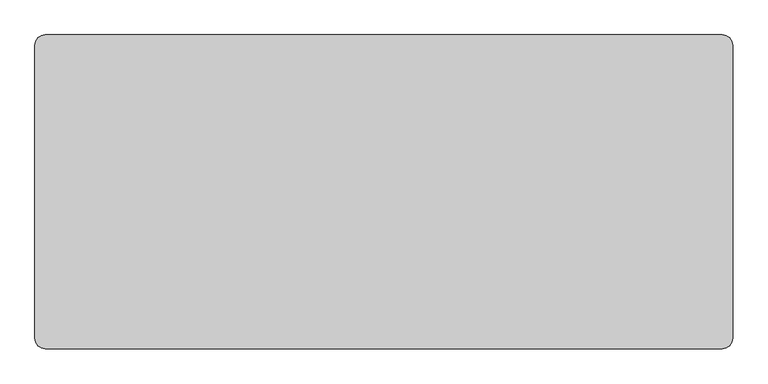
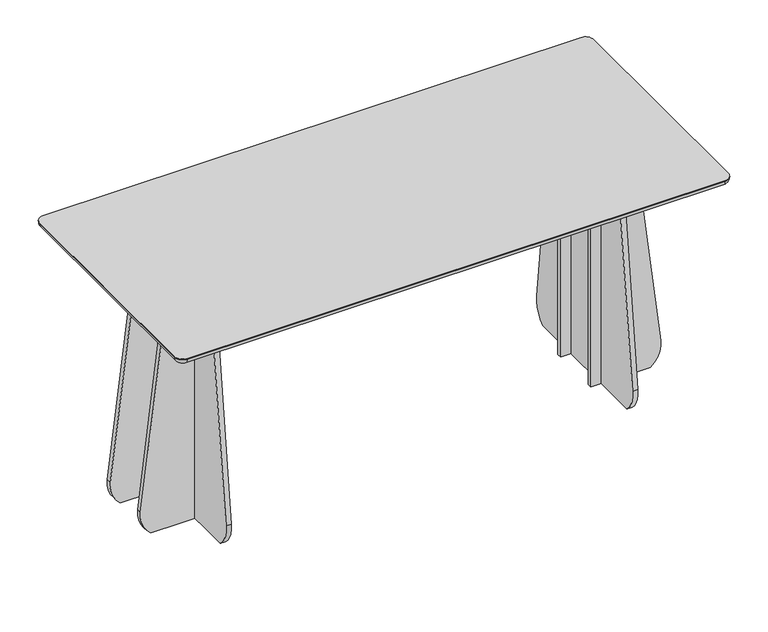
"""IFC4 building model written with IfcOpenShell, lengths in millimetres: furniture geometry, Lundbergs Möbler - Funghi Largo - Table - Rectangular - 200x90 - H90 : Lundbergs Möbler - Funghi Largo - Table - Rectangular - 200x90 - H90."""

from ifc_helpers import new_model, si_unit, point, frame, frame_2d, origin, place, context, project, spatial, polyline, circle_curve, ellipse_curve, trimmed, segment, composite_curve, outline, extrude, source, transform, mapped, element, save
from ifc_brep_helpers import plane_surface, cylinder_surface, revolved_surface, advanced_brep


def furniture_3231cc4d(model_context):
    return source(origin(), model_context, "Body", "SolidModel", [
        advanced_brep(
        [(-980.0, 420.0, 876.0), (-1000.0, 420.0, 896.0), (-970.0, 450.0, 896.0), (-970.0, 430.0, 876.0), (-980.0, -420.0, 876.0), (-1000.0, -420.0, 896.0), (-970.0, -430.0, 876.0), (-970.0, -450.0, 896.0), (970.0, -430.0, 876.0), (970.0, -450.0, 896.0), (980.0, -420.0, 876.0), (1000.0, -420.0, 896.0), (980.0, 420.0, 876.0), (1000.0, 420.0, 896.0), (970.0, 430.0, 876.0), (970.0, 450.0, 896.0), (970.0, 450.0, 900.0), (-970.0, 450.0, 900.0), (-1000.0, 420.0, 900.0), (-1000.0, -420.0, 900.0), (-970.0, -450.0, 900.0), (970.0, -450.0, 900.0), (1000.0, -420.0, 900.0), (1000.0, 420.0, 900.0)],
        [
            (0, 1, circle_curve(frame((-980.0, 420.0, 896.0), z_axis=(0.0, 1.0, 0.0), x_axis=(1.0, 0.0, 0.0)), 20.0)),
            (1, 2, circle_curve(frame((-970.0, 420.0, 896.0), z_axis=(0.0, 0.0, -1.0), x_axis=(0.0, 1.0, 0.0)), 30.0)),
            (2, 3, circle_curve(frame((-970.0, 430.0, 896.0), z_axis=(-1.0, 0.0, 0.0), x_axis=(0.0, -1.0, 0.0)), 20.0)),
            (3, 0, circle_curve(frame((-970.0, 420.0, 876.0), z_axis=(0.0, 0.0, 1.0), x_axis=(0.0, 1.0, 0.0)), 10.0)),
            (0, 4),
            (4, 5, circle_curve(frame((-980.0, -420.0, 896.0), z_axis=(0.0, 1.0, 0.0), x_axis=(1.0, 0.0, 0.0)), 20.0)),
            (5, 1),
            (4, 6, circle_curve(frame((-970.0, -420.0, 876.0), z_axis=(0.0, 0.0, 1.0), x_axis=(-1.0, 0.0, 0.0)), 10.0)),
            (6, 7, circle_curve(frame((-970.0, -430.0, 896.0), z_axis=(-1.0, 0.0, 0.0), x_axis=(0.0, 1.0, 0.0)), 20.0)),
            (7, 5, circle_curve(frame((-970.0, -420.0, 896.0), z_axis=(0.0, 0.0, -1.0), x_axis=(-1.0, 0.0, 0.0)), 30.0)),
            (6, 8),
            (8, 9, circle_curve(frame((970.0, -430.0, 896.0), z_axis=(-1.0, 0.0, 0.0), x_axis=(0.0, 1.0, 0.0)), 20.0)),
            (9, 7),
            (8, 10, circle_curve(frame((970.0, -420.0, 876.0), z_axis=(0.0, 0.0, 1.0), x_axis=(0.0, -1.0, 0.0)), 10.0)),
            (10, 11, circle_curve(frame((980.0, -420.0, 896.0), z_axis=(0.0, -1.0, 0.0), x_axis=(-1.0, 0.0, 0.0)), 20.0)),
            (11, 9, circle_curve(frame((970.0, -420.0, 896.0), z_axis=(0.0, 0.0, -1.0), x_axis=(0.0, -1.0, 0.0)), 30.0)),
            (10, 12),
            (12, 13, circle_curve(frame((980.0, 420.0, 896.0), z_axis=(0.0, -1.0, 0.0), x_axis=(-1.0, 0.0, 0.0)), 20.0)),
            (13, 11),
            (12, 14, circle_curve(frame((970.0, 420.0, 876.0), z_axis=(0.0, 0.0, 1.0), x_axis=(1.0, 0.0, 0.0)), 10.0)),
            (14, 15, circle_curve(frame((970.0, 430.0, 896.0), z_axis=(1.0, 0.0, 0.0), x_axis=(0.0, -1.0, 0.0)), 20.0)),
            (15, 13, circle_curve(frame((970.0, 420.0, 896.0), z_axis=(0.0, 0.0, -1.0), x_axis=(1.0, 0.0, 0.0)), 30.0)),
            (2, 15),
            (14, 3),
            (16, 17),
            (17, 18, circle_curve(frame((-970.0, 420.0, 900.0), z_axis=(0.0, 0.0, 1.0), x_axis=(0.0, 1.0, 0.0)), 30.0)),
            (18, 19),
            (19, 20, circle_curve(frame((-970.0, -420.0, 900.0), z_axis=(0.0, 0.0, 1.0), x_axis=(0.0, 1.0, 0.0)), 30.0)),
            (20, 21),
            (21, 22, circle_curve(frame((970.0, -420.0, 900.0), z_axis=(0.0, 0.0, 1.0), x_axis=(0.0, 1.0, 0.0)), 30.0)),
            (22, 23),
            (23, 16, circle_curve(frame((970.0, 420.0, 900.0), z_axis=(0.0, 0.0, 1.0), x_axis=(0.0, 1.0, 0.0)), 30.0)),
            (16, 15),
            (2, 17),
            (1, 18),
            (5, 19),
            (7, 20),
            (9, 21),
            (11, 22),
            (13, 23),
        ],
        [
            revolved_surface(trimmed(ellipse_curve(frame((-970.0, 430.0, 896.0), z_axis=(1.0, 0.0, 0.0), x_axis=(0.0, -1.0, 0.0)), 20.0, 20.0), [point((-970.0, 430.0, 876.0))], [point((-970.0, 450.0, 896.0))], True, "CARTESIAN"), (-970.0, 420.0, 170.0), (0.0, 0.0, 1.0)),
            cylinder_surface(frame((-980.0, 420.0, 896.0), z_axis=(0.0, -1.0, 0.0), x_axis=(1.0, 0.0, 0.0)), 20.0),
            revolved_surface(trimmed(ellipse_curve(frame((-980.0, -420.0, 896.0), z_axis=(0.0, 1.0, 0.0), x_axis=(1.0, 0.0, 0.0)), 20.0, 20.0), [point((-980.0, -420.0, 876.0))], [point((-1000.0, -420.0, 896.0))], True, "CARTESIAN"), (-970.0, -420.0, 170.0), (0.0, 0.0, 1.0)),
            cylinder_surface(frame((-970.0, -430.0, 896.0), z_axis=(1.0, 0.0, 0.0), x_axis=(0.0, 1.0, 0.0)), 20.0),
            revolved_surface(trimmed(ellipse_curve(frame((970.0, -430.0, 896.0), z_axis=(-1.0, 0.0, 0.0), x_axis=(0.0, 1.0, 0.0)), 20.0, 20.0), [point((970.0, -430.0, 876.0))], [point((970.0, -450.0, 896.0))], True, "CARTESIAN"), (970.0, -420.0, 170.0), (0.0, 0.0, 1.0)),
            cylinder_surface(frame((980.0, -420.0, 896.0), z_axis=(0.0, 1.0, 0.0), x_axis=(-1.0, 0.0, 0.0)), 20.0),
            revolved_surface(trimmed(ellipse_curve(frame((980.0, 420.0, 896.0), z_axis=(0.0, -1.0, 0.0), x_axis=(-1.0, 0.0, 0.0)), 20.0, 20.0), [point((980.0, 420.0, 876.0))], [point((1000.0, 420.0, 896.0))], True, "CARTESIAN"), (970.0, 420.0, 170.0), (0.0, 0.0, 1.0)),
            cylinder_surface(frame((970.0, 430.0, 896.0), z_axis=(-1.0, 0.0, 0.0), x_axis=(0.0, -1.0, 0.0)), 20.0),
            plane_surface(frame((-970.0, 450.0, 900.0), z_axis=(0.0, 0.0, 1.0), x_axis=(-1.0, 0.0, 0.0))),
            plane_surface(frame((-970.0, 450.0, 876.0), z_axis=(0.0, 0.0, -1.0), x_axis=(1.0, 0.0, 0.0))),
            plane_surface(frame((970.0, 450.0, 900.0), z_axis=(0.0, 1.0, 0.0), x_axis=(0.0, 0.0, -1.0))),
            cylinder_surface(frame((-970.0, 420.0, 876.0), z_axis=(0.0, 0.0, 1.0), x_axis=(0.0, 1.0, 0.0)), 30.0),
            plane_surface(frame((-1000.0, 420.0, 900.0), z_axis=(-1.0, 0.0, 0.0), x_axis=(0.0, 0.0, -1.0))),
            cylinder_surface(frame((-970.0, -420.0, 876.0), z_axis=(0.0, 0.0, 1.0), x_axis=(0.0, 1.0, 0.0)), 30.0),
            plane_surface(frame((-970.0, -450.0, 900.0), z_axis=(0.0, -1.0, 0.0), x_axis=(0.0, 0.0, -1.0))),
            cylinder_surface(frame((970.0, -420.0, 876.0), z_axis=(0.0, 0.0, 1.0), x_axis=(0.0, 1.0, 0.0)), 30.0),
            plane_surface(frame((1000.0, -420.0, 900.0), z_axis=(1.0, 0.0, 0.0), x_axis=(0.0, 0.0, -1.0))),
            cylinder_surface(frame((970.0, 420.0, 876.0), z_axis=(0.0, 0.0, 1.0), x_axis=(0.0, 1.0, 0.0)), 30.0),
        ],
        [
            (0, [[1, 2, 3, 4]]),
            (1, [[-1, 5, 6, 7]]),
            (2, [[-6, 8, 9, 10]]),
            (3, [[-9, 11, 12, 13]]),
            (4, [[-12, 14, 15, 16]]),
            (5, [[-15, 17, 18, 19]]),
            (6, [[-18, 20, 21, 22]]),
            (7, [[-3, 23, -21, 24]]),
            (8, [[25, 26, 27, 28, 29, 30, 31, 32]]),
            (9, [[-4, -24, -20, -17, -14, -11, -8, -5]]),
            (10, [[-25, 33, -23, 34]]),
            (11, [[-26, -34, -2, 35]]),
            (12, [[-27, -35, -7, 36]]),
            (13, [[-28, -36, -10, 37]]),
            (14, [[-29, -37, -13, 38]]),
            (15, [[-30, -38, -16, 39]]),
            (16, [[-31, -39, -19, 40]]),
            (17, [[-32, -40, -22, -33]]),
        ],
    ),
        extrude(outline(composite_curve([segment(polyline([(781.25, 180.0), (817.25, 180.0)]), True, "CONTINUOUS"), segment(trimmed(circle_curve(frame_2d((817.25, 178.0)), 2.0), [point((817.25, 180.0))], [point((819.25, 178.0))], False, "CARTESIAN"), True, "CONTINUOUS"), segment(polyline([(819.25, 178.0), (819.25, -178.0)]), True, "CONTINUOUS"), segment(trimmed(circle_curve(frame_2d((817.25, -178.0)), 2.0), [point((819.25, -178.0))], [point((817.25, -180.0))], False, "CARTESIAN"), True, "CONTINUOUS"), segment(polyline([(817.25, -180.0), (781.25, -180.0)]), True, "CONTINUOUS"), segment(trimmed(circle_curve(frame_2d((781.25, -178.0)), 2.0), [point((781.25, -180.0))], [point((779.25, -178.0))], False, "CARTESIAN"), True, "CONTINUOUS"), segment(polyline([(779.25, -178.0), (779.25, 178.0)]), True, "CONTINUOUS"), segment(trimmed(circle_curve(frame_2d((781.25, 178.0)), 2.0), [point((779.25, 178.0))], [point((781.25, 180.0))], False, "CARTESIAN"), True, "CONTINUOUS")], self_intersect=False)), frame((0.0, 0.0, 856.0), z_axis=(0.0, 0.0, 1.0), x_axis=(1.0, 0.0, 0.0)), (0.0, 0.0, 1.0), 20.0),
        extrude(outline(composite_curve([segment(polyline([(661.25, 180.0), (751.25, 180.0)]), True, "CONTINUOUS"), segment(trimmed(circle_curve(frame_2d((751.25, 176.5)), 3.5), [point((751.25, 180.0))], [point((754.75, 176.5))], False, "CARTESIAN"), True, "CONTINUOUS"), segment(polyline([(754.75, 176.5), (754.75, 143.5)]), True, "CONTINUOUS"), segment(trimmed(circle_curve(frame_2d((751.25, 143.5)), 3.5), [point((754.75, 143.5))], [point((751.25, 140.0))], False, "CARTESIAN"), True, "CONTINUOUS"), segment(polyline([(751.25, 140.0), (661.25, 140.0)]), True, "CONTINUOUS"), segment(trimmed(circle_curve(frame_2d((661.25, 143.5)), 3.5), [point((661.25, 140.0))], [point((657.75, 143.5))], False, "CARTESIAN"), True, "CONTINUOUS"), segment(polyline([(657.75, 143.5), (657.75, 176.5)]), True, "CONTINUOUS"), segment(trimmed(circle_curve(frame_2d((661.25, 176.5)), 3.5), [point((657.75, 176.5))], [point((661.25, 180.0))], False, "CARTESIAN"), True, "CONTINUOUS")], self_intersect=False)), frame((0.0, 0.0, 856.0), z_axis=(0.0, 0.0, 1.0), x_axis=(1.0, 0.0, 0.0)), (0.0, 0.0, 1.0), 20.0),
        extrude(outline(composite_curve([segment(polyline([(661.25, -140.0), (751.25, -140.0)]), True, "CONTINUOUS"), segment(trimmed(circle_curve(frame_2d((751.25, -143.5)), 3.5), [point((751.25, -140.0))], [point((754.75, -143.5))], False, "CARTESIAN"), True, "CONTINUOUS"), segment(polyline([(754.75, -143.5), (754.75, -176.5)]), True, "CONTINUOUS"), segment(trimmed(circle_curve(frame_2d((751.25, -176.5)), 3.5), [point((754.75, -176.5))], [point((751.25, -180.0))], False, "CARTESIAN"), True, "CONTINUOUS"), segment(polyline([(751.25, -180.0), (661.25, -180.0)]), True, "CONTINUOUS"), segment(trimmed(circle_curve(frame_2d((661.25, -176.5)), 3.5), [point((661.25, -180.0))], [point((657.75, -176.5))], False, "CARTESIAN"), True, "CONTINUOUS"), segment(polyline([(657.75, -176.5), (657.75, -143.5)]), True, "CONTINUOUS"), segment(trimmed(circle_curve(frame_2d((661.25, -143.5)), 3.5), [point((657.75, -143.5))], [point((661.25, -140.0))], False, "CARTESIAN"), True, "CONTINUOUS")], self_intersect=False)), frame((0.0, 0.0, 856.0), z_axis=(0.0, 0.0, 1.0), x_axis=(1.0, 0.0, 0.0)), (0.0, 0.0, 1.0), 20.0),
        extrude(outline(composite_curve([segment(trimmed(circle_curve(frame_2d((200.0, 78.0350603)), 100.0), [point((299.2807726, 90.0070355))], [point((262.5342255, 0.0))], False, "CARTESIAN"), True, "CONTINUOUS"), segment(polyline([(262.5342255, 0.0), (-262.5342255, 0.0)]), True, "CONTINUOUS"), segment(trimmed(circle_curve(frame_2d((-200.0, 78.0350603)), 100.0), [point((-262.5342255, 0.0))], [point((-299.2807726, 90.0070355))], False, "CARTESIAN"), True, "CONTINUOUS"), segment(polyline([(-299.2807726, 90.0070355), (-204.500202, 876.0), (204.500202, 876.0), (299.2807726, 90.0070355)]), True, "CONTINUOUS")], self_intersect=False)), frame((724.25, 0.0, 0.0), z_axis=(1.0, 0.0, 0.0), x_axis=(0.0, 1.0, 0.0)), (0.0, 0.0, 1.0), 18.5),
        extrude(outline(composite_curve([segment(polyline([(90.0070355, 938.5307726), (876.0, 843.750202), (876.0, 687.25), (0.0, 687.25), (0.0, 901.7842255)]), True, "CONTINUOUS"), segment(trimmed(circle_curve(frame_2d((78.0350603, 839.25)), 100.0), [point((0.0, 901.7842255))], [point((90.0070355, 938.5307726))], False, "CARTESIAN"), True, "CONTINUOUS")], self_intersect=False)), frame((0.0, 85.5, 0.0), z_axis=(0.0, 1.0, 0.0), x_axis=(0.0, 0.0, 1.0)), (0.0, 0.0, 1.0), 18.0),
        extrude(outline(composite_curve([segment(polyline([(90.0070355, 938.5307726), (876.0, 843.750202), (876.0, 687.25), (0.0, 687.25), (0.0, 901.7842255)]), True, "CONTINUOUS"), segment(trimmed(circle_curve(frame_2d((78.0350603, 839.25)), 100.0), [point((0.0, 901.7842255))], [point((90.0070355, 938.5307726))], False, "CARTESIAN"), True, "CONTINUOUS")], self_intersect=False)), frame((0.0, -103.5, 0.0), z_axis=(0.0, 1.0, 0.0), x_axis=(0.0, 0.0, 1.0)), (0.0, 0.0, 1.0), 18.0),
        extrude(outline(composite_curve([segment(trimmed(circle_curve(frame_2d((-781.25, 178.0)), 2.0), [point((-781.25, 180.0))], [point((-779.25, 178.0))], False, "CARTESIAN"), True, "CONTINUOUS"), segment(polyline([(-779.25, 178.0), (-779.25, -178.0)]), True, "CONTINUOUS"), segment(trimmed(circle_curve(frame_2d((-781.25, -178.0)), 2.0), [point((-779.25, -178.0))], [point((-781.25, -180.0))], False, "CARTESIAN"), True, "CONTINUOUS"), segment(polyline([(-781.25, -180.0), (-817.25, -180.0)]), True, "CONTINUOUS"), segment(trimmed(circle_curve(frame_2d((-817.25, -178.0)), 2.0), [point((-817.25, -180.0))], [point((-819.25, -178.0))], False, "CARTESIAN"), True, "CONTINUOUS"), segment(polyline([(-819.25, -178.0), (-819.25, 178.0)]), True, "CONTINUOUS"), segment(trimmed(circle_curve(frame_2d((-817.25, 178.0)), 2.0), [point((-819.25, 178.0))], [point((-817.25, 180.0))], False, "CARTESIAN"), True, "CONTINUOUS"), segment(polyline([(-817.25, 180.0), (-781.25, 180.0)]), True, "CONTINUOUS")], self_intersect=False)), frame((0.0, 0.0, 856.0), z_axis=(0.0, 0.0, 1.0), x_axis=(1.0, 0.0, 0.0)), (0.0, 0.0, 1.0), 20.0),
        extrude(outline(composite_curve([segment(trimmed(circle_curve(frame_2d((-661.25, 176.5)), 3.5), [point((-661.25, 180.0))], [point((-657.75, 176.5))], False, "CARTESIAN"), True, "CONTINUOUS"), segment(polyline([(-657.75, 176.5), (-657.75, 143.5)]), True, "CONTINUOUS"), segment(trimmed(circle_curve(frame_2d((-661.25, 143.5)), 3.5), [point((-657.75, 143.5))], [point((-661.25, 140.0))], False, "CARTESIAN"), True, "CONTINUOUS"), segment(polyline([(-661.25, 140.0), (-751.25, 140.0)]), True, "CONTINUOUS"), segment(trimmed(circle_curve(frame_2d((-751.25, 143.5)), 3.5), [point((-751.25, 140.0))], [point((-754.75, 143.5))], False, "CARTESIAN"), True, "CONTINUOUS"), segment(polyline([(-754.75, 143.5), (-754.75, 176.5)]), True, "CONTINUOUS"), segment(trimmed(circle_curve(frame_2d((-751.25, 176.5)), 3.5), [point((-754.75, 176.5))], [point((-751.25, 180.0))], False, "CARTESIAN"), True, "CONTINUOUS"), segment(polyline([(-751.25, 180.0), (-661.25, 180.0)]), True, "CONTINUOUS")], self_intersect=False)), frame((0.0, 0.0, 856.0), z_axis=(0.0, 0.0, 1.0), x_axis=(1.0, 0.0, 0.0)), (0.0, 0.0, 1.0), 20.0),
        extrude(outline(composite_curve([segment(trimmed(circle_curve(frame_2d((-661.25, -143.5)), 3.5), [point((-661.25, -140.0))], [point((-657.75, -143.5))], False, "CARTESIAN"), True, "CONTINUOUS"), segment(polyline([(-657.75, -143.5), (-657.75, -176.5)]), True, "CONTINUOUS"), segment(trimmed(circle_curve(frame_2d((-661.25, -176.5)), 3.5), [point((-657.75, -176.5))], [point((-661.25, -180.0))], False, "CARTESIAN"), True, "CONTINUOUS"), segment(polyline([(-661.25, -180.0), (-751.25, -180.0)]), True, "CONTINUOUS"), segment(trimmed(circle_curve(frame_2d((-751.25, -176.5)), 3.5), [point((-751.25, -180.0))], [point((-754.75, -176.5))], False, "CARTESIAN"), True, "CONTINUOUS"), segment(polyline([(-754.75, -176.5), (-754.75, -143.5)]), True, "CONTINUOUS"), segment(trimmed(circle_curve(frame_2d((-751.25, -143.5)), 3.5), [point((-754.75, -143.5))], [point((-751.25, -140.0))], False, "CARTESIAN"), True, "CONTINUOUS"), segment(polyline([(-751.25, -140.0), (-661.25, -140.0)]), True, "CONTINUOUS")], self_intersect=False)), frame((0.0, 0.0, 856.0), z_axis=(0.0, 0.0, 1.0), x_axis=(1.0, 0.0, 0.0)), (0.0, 0.0, 1.0), 20.0),
        extrude(outline(composite_curve([segment(trimmed(circle_curve(frame_2d((200.0, 78.0350603)), 100.0), [point((299.2807726, 90.0070355))], [point((262.5342255, 0.0))], False, "CARTESIAN"), True, "CONTINUOUS"), segment(polyline([(262.5342255, 0.0), (-262.5342255, 0.0)]), True, "CONTINUOUS"), segment(trimmed(circle_curve(frame_2d((-200.0, 78.0350603)), 100.0), [point((-262.5342255, 0.0))], [point((-299.2807726, 90.0070355))], False, "CARTESIAN"), True, "CONTINUOUS"), segment(polyline([(-299.2807726, 90.0070355), (-204.500202, 876.0), (204.500202, 876.0), (299.2807726, 90.0070355)]), True, "CONTINUOUS")], self_intersect=False)), frame((-742.75, 0.0, 0.0), z_axis=(1.0, 0.0, 0.0), x_axis=(0.0, 1.0, 0.0)), (0.0, 0.0, 1.0), 18.5),
        extrude(outline(composite_curve([segment(trimmed(circle_curve(frame_2d((78.0350603, -839.25)), 100.0), [point((90.0070355, -938.5307726))], [point((0.0, -901.7842255))], False, "CARTESIAN"), True, "CONTINUOUS"), segment(polyline([(0.0, -901.7842255), (0.0, -687.25), (876.0, -687.25), (876.0, -843.750202), (90.0070355, -938.5307726)]), True, "CONTINUOUS")], self_intersect=False)), frame((0.0, 85.5, 0.0), z_axis=(0.0, 1.0, 0.0), x_axis=(0.0, 0.0, 1.0)), (0.0, 0.0, 1.0), 18.0),
        extrude(outline(composite_curve([segment(trimmed(circle_curve(frame_2d((78.0350603, -839.25)), 100.0), [point((90.0070355, -938.5307726))], [point((0.0, -901.7842255))], False, "CARTESIAN"), True, "CONTINUOUS"), segment(polyline([(0.0, -901.7842255), (0.0, -687.25), (876.0, -687.25), (876.0, -843.750202), (90.0070355, -938.5307726)]), True, "CONTINUOUS")], self_intersect=False)), frame((0.0, -103.5, 0.0), z_axis=(0.0, 1.0, 0.0), x_axis=(0.0, 0.0, 1.0)), (0.0, 0.0, 1.0), 18.0),
    ])


if __name__ == "__main__":
    model = new_model("IFC4")
    model_context = context("Model", 3, world=origin())
    ifc_project = project(units=[si_unit("LENGTHUNIT", "METRE", prefix="MILLI")], contexts=[model_context])
    site = spatial("IfcSite", under=ifc_project)
    building = spatial("IfcBuilding", under=site)
    placement = place(None, origin())
    furniture_shape = furniture_3231cc4d(model_context)
    element("IfcFurniture", 1, ObjectType="Lundbergs Möbler - Funghi Largo - Table - Rectangular - 200x90 - H90 : Lundbergs Möbler - Funghi Largo - Table - Rectangular - 200x90 - H90", at=placement, inside=building, context=model_context, shape_type="MappedRepresentation", body=[
        mapped(furniture_shape, transform((0.0, 0.0, 0.0), x_axis=(1.0, 0.0, 0.0), y_axis=(0.0, 1.0, 0.0), z_axis=(0.0, 0.0, 1.0))),
    ])
    save(model, "model.ifc")
